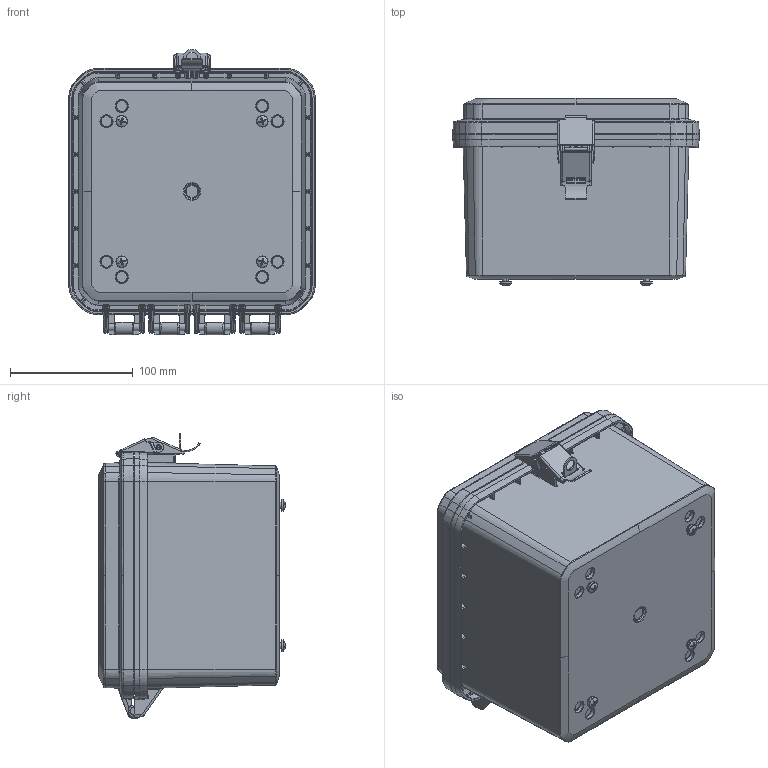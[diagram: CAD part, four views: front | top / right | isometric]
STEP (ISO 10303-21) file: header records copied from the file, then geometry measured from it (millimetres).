
FILE_DESCRIPTION (( 'STEP AP214' ), '1' );
FILE_NAME ('HP-070705-12.STEP', '2025-02-12T11:37:02', ( '' ), ( '' ), 'SwSTEP 2.0', 'SolidWorks 2024', '' );
FILE_SCHEMA (( 'AUTOMOTIVE_DESIGN' ));
Length unit declared in the file: inch
Products named in the file (15): HP-07071C_HP-07071C-02; ZH-01L4; ZH-01L3; LABEL-105; HP-070705-12; ZH-01L5; HP-07071CG_HP-07071CG-02; HP-0707xB_HP-07074B-01; ZH-01L; ZH-01L1; SCREWS-049_SCREWS-049; INSERTS-4; ZH-01L2; HP-0707G; HP-0707xBI_HP-07074BI-01
Assembly tree (20 placements, depth 3):
  HP-070705-12
    HP-0707xBI_HP-07074BI-01
      HP-0707xB_HP-07074B-01
      LABEL-105
      INSERTS-4  x4
    HP-07071CG_HP-07071CG-02
      HP-07071C_HP-07071C-02
      HP-0707G
    ZH-01L
      ZH-01L1
      ZH-01L2
      ZH-01L3
      ZH-01L4
      ZH-01L5
    SCREWS-049_SCREWS-049  x4
Bounding box: 200.41 x 151.97 x 232.37 mm (x, y, z)
Volume: 672038.3 mm3; surface area: 433114.9 mm2
Topology: 17 solids, 17 shells, 4567 faces, 10894 edges, 6310 vertices
Faces by surface type: bspline 1567, cylinder 1077, plane 963, torus 496, cone 296, sphere 168
Entity records: 177997 total; most frequent: CARTESIAN_POINT 92888, ORIENTED_EDGE 19962, DIRECTION 15247, EDGE_CURVE 9981, AXIS2_PLACEMENT_3D 6262, VERTEX_POINT 5767, EDGE_LOOP 4320, FACE_OUTER_BOUND 4258
